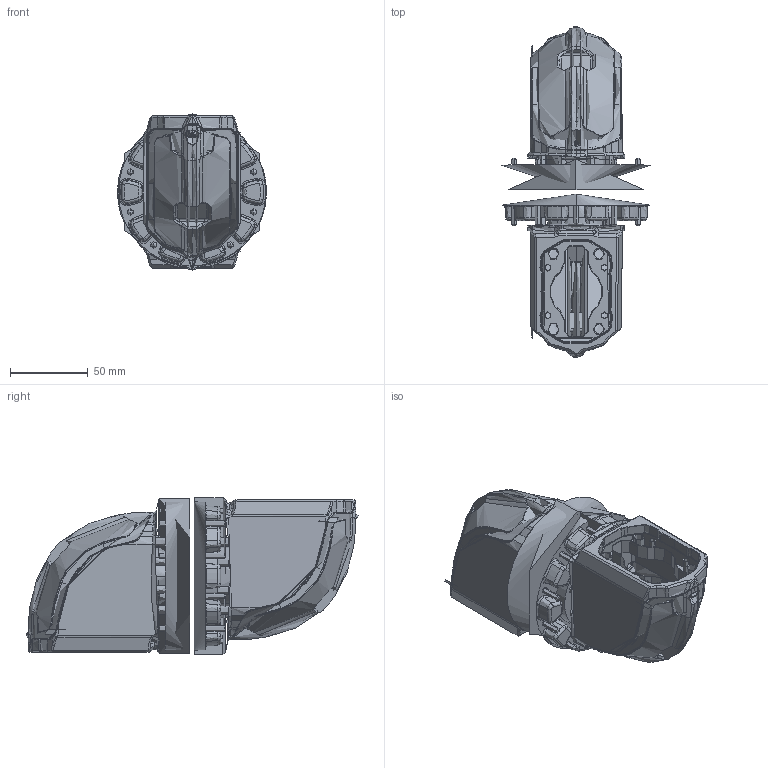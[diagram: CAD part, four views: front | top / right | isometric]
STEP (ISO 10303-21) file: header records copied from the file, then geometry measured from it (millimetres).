
FILE_DESCRIPTION (( 'STEP AP203' ), '1' );
FILE_NAME ('TP.045.0234.STEP', '2026-09-30T07:27:17', ( '' ), ( '' ), 'SwSTEP 2.0', 'SolidWorks 2015', '' );
FILE_SCHEMA (( 'CONFIG_CONTROL_DESIGN' ));
Length unit declared in the file: millimetre
Products named in the file (7): TP.045.200; kapak vida; TP.045.200 (1); TP.045.Kapak; TP.045.0234
Assembly tree (10 placements, depth 3):
  TP.045.0234
    TP.045.200
      TP.045.200
      TP.045.Kapak
      kapak vida  x2
    TP.045.200 (1)
      TP.045.200 (1)
      TP.045.Kapak
      kapak vida  x2
Bounding box: 95.97 x 213.76 x 100.96 mm (x, y, z)
Topology: 6 solids, 21 shells, 5511 faces, 13454 edges, 7947 vertices
Faces by surface type: bspline 3696, plane 582, cylinder 560, cone 336, torus 281, sphere 56
Entity records: 322132 total; most frequent: CARTESIAN_POINT 239945, ORIENTED_EDGE 21908, EDGE_CURVE 10954, DIRECTION 7788, B_SPLINE_CURVE_WITH_KNOTS 7567, VERTEX_POINT 6504, EDGE_LOOP 4630, ADVANCED_FACE 4509
